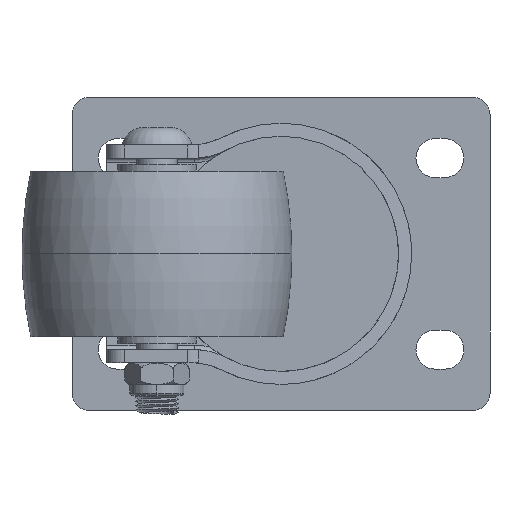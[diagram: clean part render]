
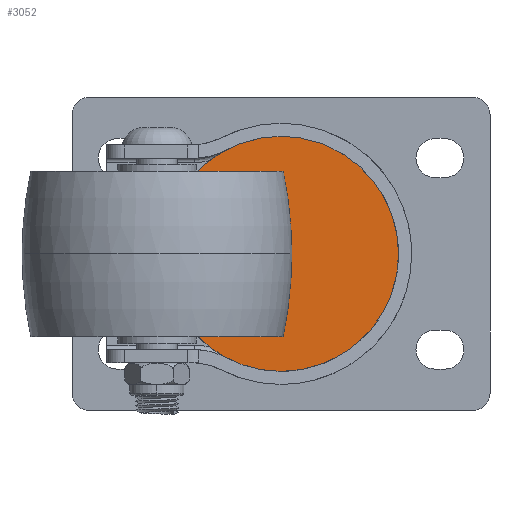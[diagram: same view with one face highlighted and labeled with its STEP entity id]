
A CAD part, front view. The second image highlights one B-rep face of the part: STEP entity #3052.
In plain terms, the highlighted planar face has unit normal (0, -1, 0).
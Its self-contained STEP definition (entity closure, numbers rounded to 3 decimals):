
#816 = DIRECTION ( 'NONE',  ( 0., 0., 1. ) ) ;
#858 = CARTESIAN_POINT ( 'NONE',  ( 0., 57., 0. ) ) ;
#989 = ORIENTED_EDGE ( 'NONE', *, *, #14940, .F. ) ;
#1549 = DIRECTION ( 'NONE',  ( 0., 0., 1. ) ) ;
#1753 = CARTESIAN_POINT ( 'NONE',  ( 0., 57., 27. ) ) ;
#2965 = VERTEX_POINT ( 'NONE', #6253 ) ;
#3052 = ADVANCED_FACE ( 'NONE', ( #3196 ), #7800, .F. ) ;
#3196 = FACE_OUTER_BOUND ( 'NONE', #3344, .T. ) ;
#3344 = EDGE_LOOP ( 'NONE', ( #9109, #989 ) ) ;
#3577 = AXIS2_PLACEMENT_3D ( 'NONE', #9659, #13219, #12098 ) ;
#3818 = DIRECTION ( 'NONE',  ( 0., 1., 0. ) ) ;
#3878 = CARTESIAN_POINT ( 'NONE',  ( 0., 57., 0. ) ) ;
#5939 = EDGE_CURVE ( 'NONE', #2965, #12533, #14553, .T. ) ;
#6253 = CARTESIAN_POINT ( 'NONE',  ( 0., 57., -27. ) ) ;
#7800 = PLANE ( 'NONE',  #8060 ) ;
#8060 = AXIS2_PLACEMENT_3D ( 'NONE', #858, #8986, #816 ) ;
#8986 = DIRECTION ( 'NONE',  ( 0., 1., 0. ) ) ;
#9109 = ORIENTED_EDGE ( 'NONE', *, *, #5939, .F. ) ;
#9659 = CARTESIAN_POINT ( 'NONE',  ( 0., 57., 0. ) ) ;
#10920 = CIRCLE ( 'NONE', #3577, 27. ) ;
#11434 = AXIS2_PLACEMENT_3D ( 'NONE', #3878, #3818, #1549 ) ;
#12098 = DIRECTION ( 'NONE',  ( 0., 0., 1. ) ) ;
#12533 = VERTEX_POINT ( 'NONE', #1753 ) ;
#13219 = DIRECTION ( 'NONE',  ( 0., 1., 0. ) ) ;
#14553 = CIRCLE ( 'NONE', #11434, 27. ) ;
#14940 = EDGE_CURVE ( 'NONE', #12533, #2965, #10920, .T. ) ;
